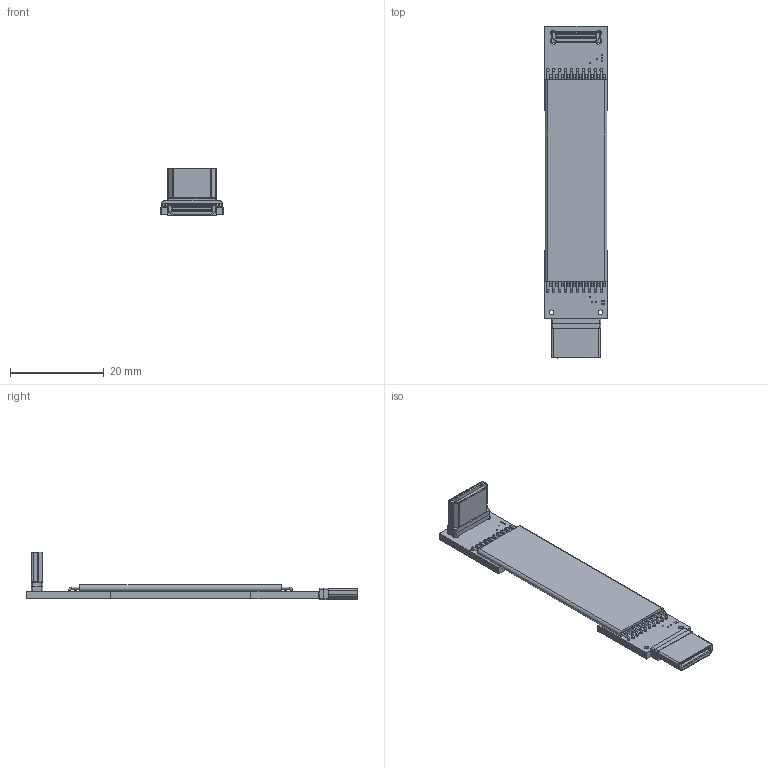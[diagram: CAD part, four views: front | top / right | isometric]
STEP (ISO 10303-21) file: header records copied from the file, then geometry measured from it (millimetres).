
FILE_DESCRIPTION(('Open CASCADE Model'),'2;1');
FILE_NAME('Open CASCADE Shape Model','2022-06-09T21:12:29',('Author'),( 'Open CASCADE'),'Open CASCADE STEP processor 6.8','Open CASCADE 6.8' ,'Unknown');
FILE_SCHEMA(('AUTOMOTIVE_DESIGN { 1 0 10303 214 1 1 1 1 }'));
Length unit declared in the file: millimetre
Products named in the file (49): PCB; Board; Open CASCADE STEP translator 6.8 10.1.1; _1; HDMI_type_C1; miniHDMI-p_RGB10275833; Open CASCADE STEP translator 6.8 10.3; Free-Models; cable20-A1A1
Assembly tree (52 placements, depth 3):
  PCB
    Board
      Open CASCADE STEP translator 6.8 10.1.1
    _1
      HDMI_type_C1
      miniHDMI-p_RGB10275833  x2
    Open CASCADE STEP translator 6.8 10.3
      miniHDMI-p_RGB10275833  x2
      HDMI_type_C1
    Free-Models
      cable20-A1A1
      cable20-A1A1
      cable20-A1A1
      cable20-A1A1
      cable20-A1A1
      cable20-A1A1
      cable20-A1A1
      cable20-A1A1
      cable20-A1A1
      cable20-A1A1
      cable20-A1A1
      cable20-A1A1
      cable20-A1A1
      cable20-A1A1
      cable20-A1A1
      cable20-A1A1
      cable20-A1A1
      cable20-A1A1
      cable20-A1A1
      cable20-A1A1
      cable20-A1A1
      cable20-A1A1
      cable20-A1A1
      cable20-A1A1
      cable20-A1A1
      cable20-A1A1
      cable20-A1A1
      cable20-A1A1
      cable20-A1A1
      cable20-A1A1
      cable20-A1A1
      cable20-A1A1
      cable20-A1A1
      cable20-A1A1
      cable20-A1A1
      cable20-A1A1
      cable20-A1A1
      cable20-A1A1
      cable20-A1A1
      cable20-A1A1
      cable20-A1A1
Bounding box: 13.4 x 70.82 x 10.21 mm (x, y, z)
Volume: 1688.8 mm3; surface area: 4729.7 mm2
Topology: 48 solids, 48 shells, 658 faces, 1588 edges, 1028 vertices
Faces by surface type: plane 352, cylinder 254, torus 52
Full cylindrical faces by diameter (mm): 0.254 x12, 0.4 x110, 0.55 x20, 0.6 x20, 1.1 x2, 1.4 x2
Entity records: 18100 total; most frequent: CARTESIAN_POINT 2626, DIRECTION 2412, ORIENTED_EDGE 2144, EDGE_CURVE 1072, AXIS2_PLACEMENT_3D 952, VERTEX_POINT 686, FACE_BOUND 654, EDGE_LOOP 654
